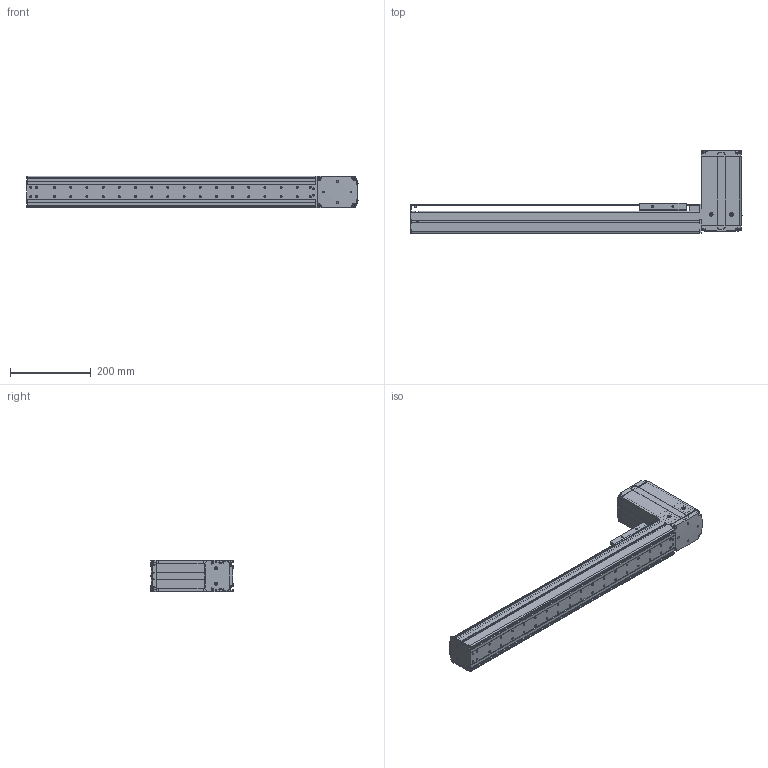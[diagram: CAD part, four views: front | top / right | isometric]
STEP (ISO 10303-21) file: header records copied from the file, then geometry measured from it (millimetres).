
FILE_DESCRIPTION((''),'2;1');
FILE_NAME('BE10_-BT-M_N-50_IGS_PRT','2017-06-18T',(' '),(''),'PRO/ENGINEER BY PARAMETRIC TECHNOLOGY CORPORATION, 2015030','PRO/ENGINEER BY PARAMETRIC TECHNOLOGY CORPORATION, 2015030','');
FILE_SCHEMA(('CONFIG_CONTROL_DESIGN'));
Products named in the file (1): BE10_-BT-M_N-50_IGS_PRT
Bounding box: 820.8 x 204.72 x 78 mm (x, y, z)
Volume: 1131075.8 mm3; surface area: 797753.4 mm2
Topology: 3 solids, 126 shells, 2023 faces, 5517 edges, 3621 vertices
Faces by surface type: plane 978, cylinder 874, cone 111, sphere 30, torus 27, bspline 3
Entity records: 65593 total; most frequent: CARTESIAN_POINT 13361, DIRECTION 11077, ORIENTED_EDGE 10494, EDGE_CURVE 5455, AXIS2_PLACEMENT_3D 3944, VERTEX_POINT 3621, VECTOR 3189, LINE 3189
